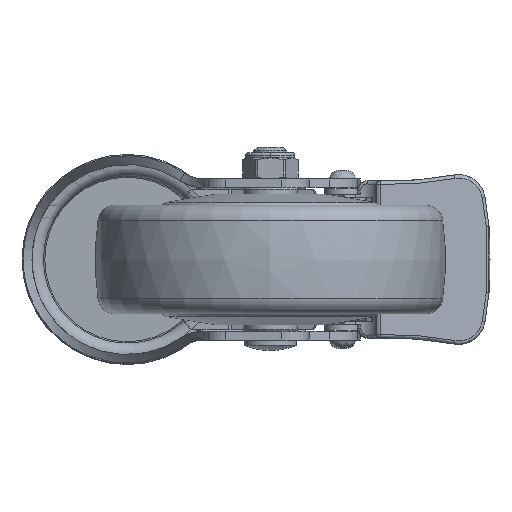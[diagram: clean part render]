
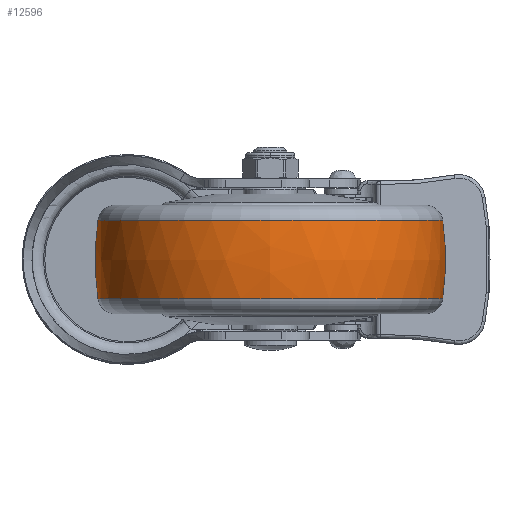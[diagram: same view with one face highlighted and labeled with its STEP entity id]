
A CAD part, front view. The second image highlights one B-rep face of the part: STEP entity #12596.
In plain terms, the highlighted free-form (B-spline) face has degree [3, 3] with [7, 4] control points.
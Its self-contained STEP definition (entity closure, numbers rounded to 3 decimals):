
#11907=CARTESIAN_POINT('',(-11.2,0.,0.));
#11908=DIRECTION('',(-1.,0.,0.));
#11909=DIRECTION('',(0.,1.,0.));
#11910=AXIS2_PLACEMENT_3D('',#11907,#11908,#11909);
#11922=CARTESIAN_POINT('',(0.,-30.,0.));
#11923=DIRECTION('',(0.,0.,1.));
#11924=DIRECTION('',(0.14,0.99,0.));
#11925=AXIS2_PLACEMENT_3D('',#11922,#11923,#11924);
#11927=CARTESIAN_POINT('',(0.,30.,0.));
#11928=DIRECTION('',(0.,0.,-1.));
#11929=DIRECTION('',(0.14,-0.99,0.));
#11930=AXIS2_PLACEMENT_3D('',#11927,#11928,#11929);
#11932=CARTESIAN_POINT('',(11.2,0.,0.));
#11933=DIRECTION('',(-1.,0.,0.));
#11934=DIRECTION('',(0.,1.,0.));
#11935=AXIS2_PLACEMENT_3D('',#11932,#11933,#11934);
#12170=CARTESIAN_POINT('',(11.2,49.212,0.));
#12172=VERTEX_POINT('',#12170);
#12173=CARTESIAN_POINT('',(-11.2,49.212,0.));
#12174=VERTEX_POINT('',#12173);
#12218=CARTESIAN_POINT('',(11.2,-49.212,
0.));
#12220=VERTEX_POINT('',#12218);
#12221=CARTESIAN_POINT('',(-11.2,-49.212,
0.));
#12222=VERTEX_POINT('',#12221);
#12560=CARTESIAN_POINT('',(-11.645,-49.051,
3.086));
#12561=CARTESIAN_POINT('',(-3.909,-50.187,
3.157));
#12562=CARTESIAN_POINT('',(3.909,-50.187,
3.157));
#12563=CARTESIAN_POINT('',(11.645,-49.051,
3.086));
#12564=CARTESIAN_POINT('',(-11.645,-50.95,
-27.1));
#12565=CARTESIAN_POINT('',(-3.909,-52.13,
-27.727));
#12566=CARTESIAN_POINT('',(3.909,-52.13,
-27.727));
#12567=CARTESIAN_POINT('',(11.645,-50.95,
-27.1));
#12568=CARTESIAN_POINT('',(-11.645,-30.246,
-49.148));
#12569=CARTESIAN_POINT('',(-3.909,-30.946,
-50.286));
#12570=CARTESIAN_POINT('',(3.909,-30.946,
-50.286));
#12571=CARTESIAN_POINT('',(11.645,-30.246,
-49.148));
#12572=CARTESIAN_POINT('',(-11.645,0.,
-49.148));
#12573=CARTESIAN_POINT('',(-3.909,0.,
-50.286));
#12574=CARTESIAN_POINT('',(3.909,0.,-50.286));
#12575=CARTESIAN_POINT('',(11.645,0.,
-49.148));
#12576=CARTESIAN_POINT('',(-11.645,30.246,
-49.148));
#12577=CARTESIAN_POINT('',(-3.909,30.946,
-50.286));
#12578=CARTESIAN_POINT('',(3.909,30.946,
-50.286));
#12579=CARTESIAN_POINT('',(11.645,30.246,
-49.148));
#12580=CARTESIAN_POINT('',(-11.645,50.95,
-27.1));
#12581=CARTESIAN_POINT('',(-3.909,52.13,
-27.727));
#12582=CARTESIAN_POINT('',(3.909,52.13,
-27.727));
#12583=CARTESIAN_POINT('',(11.645,50.95,
-27.1));
#12584=CARTESIAN_POINT('',(-11.645,49.051,
3.086));
#12585=CARTESIAN_POINT('',(-3.909,50.187,
3.157));
#12586=CARTESIAN_POINT('',(3.909,50.187,3.157));
#12587=CARTESIAN_POINT('',(11.645,49.051,3.086));
#12588=(BOUNDED_SURFACE()B_SPLINE_SURFACE(3,3,((#12560,#12561,#12562,#12563),(
#12564,#12565,#12566,#12567),(#12568,#12569,#12570,#12571),(#12572,#12573,
#12574,#12575),(#12576,#12577,#12578,#12579),(#12580,#12581,#12582,#12583),(
#12584,#12585,#12586,#12587)),.UNSPECIFIED.,.F.,.F.,.F.)B_SPLINE_SURFACE_WITH_KNOTS((4,3,4),(4,4),(0.,1.,2.),(0.,1.),.UNSPECIFIED.)GEOMETRIC_REPRESENTATION_ITEM()RATIONAL_B_SPLINE_SURFACE(((1.194,1.185,
1.185,1.194),(0.943,0.936,
0.936,0.943),(0.943,0.936,
0.936,0.943),(1.194,1.185,
1.185,1.194),(0.943,0.936,
0.936,0.943),(0.943,0.936,
0.936,0.943),(1.194,1.185,
1.185,1.194)))REPRESENTATION_ITEM('')SURFACE());
#12589=ORIENTED_EDGE('',*,*,#12550,.T.);
#12590=ORIENTED_EDGE('',*,*,#12503,.T.);
#12591=ORIENTED_EDGE('',*,*,#12554,.F.);
#12593=ORIENTED_EDGE('',*,*,#12592,.F.);
#12594=EDGE_LOOP('',(#12589,#12590,#12591,#12593));
#12595=FACE_OUTER_BOUND('',#12594,.F.);
#11911=CIRCLE('',#11910,49.212);
#11926=CIRCLE('',#11925,80.);
#11931=CIRCLE('',#11930,80.);
#11936=CIRCLE('',#11935,49.212);
#12503=EDGE_CURVE('',#12174,#12222,#11911,.T.);
#12550=EDGE_CURVE('',#12172,#12174,#11926,.T.);
#12554=EDGE_CURVE('',#12220,#12222,#11931,.T.);
#12592=EDGE_CURVE('',#12172,#12220,#11936,.T.);
#12596=ADVANCED_FACE('',(#12595),#12588,.T.);
